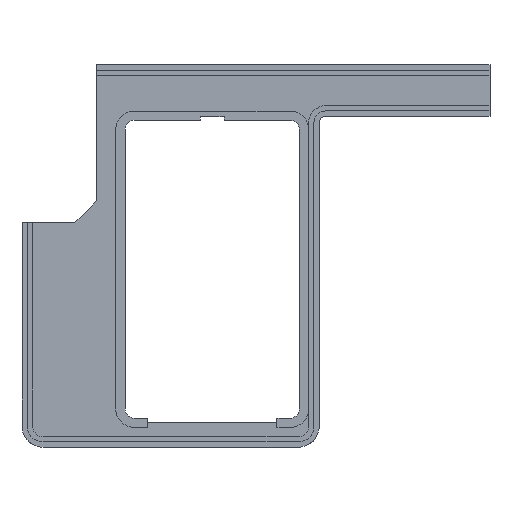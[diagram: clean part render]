
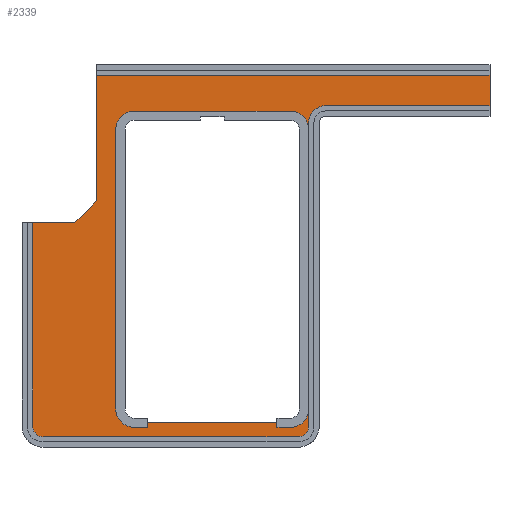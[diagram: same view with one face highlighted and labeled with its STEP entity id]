
A CAD part, top view. The second image highlights one B-rep face of the part: STEP entity #2339.
In plain terms, the highlighted planar face has unit normal (0, 0, 1).
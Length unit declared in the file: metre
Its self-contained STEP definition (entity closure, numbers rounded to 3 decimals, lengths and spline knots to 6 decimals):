
#39=CIRCLE('',#2484,0.007);
#40=CIRCLE('',#2485,0.007);
#41=CIRCLE('',#2486,0.007);
#42=CIRCLE('',#2487,0.007);
#43=CIRCLE('',#2488,0.0065);
#44=CIRCLE('',#2489,0.004);
#45=CIRCLE('',#2490,0.004);
#95=ORIENTED_EDGE('',*,*,#789,.F.);
#96=ORIENTED_EDGE('',*,*,#790,.T.);
#97=ORIENTED_EDGE('',*,*,#791,.T.);
#98=ORIENTED_EDGE('',*,*,#792,.T.);
#99=ORIENTED_EDGE('',*,*,#793,.T.);
#100=ORIENTED_EDGE('',*,*,#794,.T.);
#101=ORIENTED_EDGE('',*,*,#795,.T.);
#102=ORIENTED_EDGE('',*,*,#796,.T.);
#103=ORIENTED_EDGE('',*,*,#797,.T.);
#104=ORIENTED_EDGE('',*,*,#798,.T.);
#105=ORIENTED_EDGE('',*,*,#799,.F.);
#106=ORIENTED_EDGE('',*,*,#800,.T.);
#107=ORIENTED_EDGE('',*,*,#801,.F.);
#108=ORIENTED_EDGE('',*,*,#802,.T.);
#109=ORIENTED_EDGE('',*,*,#803,.F.);
#110=ORIENTED_EDGE('',*,*,#804,.T.);
#111=ORIENTED_EDGE('',*,*,#805,.T.);
#112=ORIENTED_EDGE('',*,*,#806,.T.);
#113=ORIENTED_EDGE('',*,*,#807,.T.);
#114=ORIENTED_EDGE('',*,*,#808,.F.);
#115=ORIENTED_EDGE('',*,*,#809,.F.);
#116=ORIENTED_EDGE('',*,*,#810,.F.);
#117=ORIENTED_EDGE('',*,*,#811,.F.);
#118=ORIENTED_EDGE('',*,*,#812,.T.);
#789=EDGE_CURVE('',#1136,#1137,#1363,.T.);
#790=EDGE_CURVE('',#1136,#1138,#39,.T.);
#791=EDGE_CURVE('',#1138,#1139,#1364,.T.);
#792=EDGE_CURVE('',#1139,#1140,#1365,.T.);
#793=EDGE_CURVE('',#1140,#1141,#1366,.T.);
#794=EDGE_CURVE('',#1141,#1142,#1367,.T.);
#795=EDGE_CURVE('',#1142,#1143,#1368,.T.);
#796=EDGE_CURVE('',#1143,#1144,#40,.T.);
#797=EDGE_CURVE('',#1144,#1145,#1369,.T.);
#798=EDGE_CURVE('',#1145,#1146,#41,.T.);
#799=EDGE_CURVE('',#1147,#1146,#1370,.T.);
#800=EDGE_CURVE('',#1147,#1148,#42,.T.);
#801=EDGE_CURVE('',#1149,#1148,#1371,.T.);
#802=EDGE_CURVE('',#1149,#1150,#43,.T.);
#803=EDGE_CURVE('',#1151,#1150,#1372,.T.);
#804=EDGE_CURVE('',#1151,#1152,#1373,.T.);
#805=EDGE_CURVE('',#1152,#1153,#1374,.T.);
#806=EDGE_CURVE('',#1153,#1154,#1375,.T.);
#807=EDGE_CURVE('',#1154,#1155,#1376,.T.);
#808=EDGE_CURVE('',#1156,#1155,#1377,.T.);
#809=EDGE_CURVE('',#1157,#1156,#1378,.T.);
#810=EDGE_CURVE('',#1158,#1157,#44,.T.);
#811=EDGE_CURVE('',#1159,#1158,#1379,.T.);
#812=EDGE_CURVE('',#1159,#1137,#45,.F.);
#1136=VERTEX_POINT('',#3336);
#1137=VERTEX_POINT('',#3337);
#1138=VERTEX_POINT('',#3339);
#1139=VERTEX_POINT('',#3341);
#1140=VERTEX_POINT('',#3343);
#1141=VERTEX_POINT('',#3345);
#1142=VERTEX_POINT('',#3347);
#1143=VERTEX_POINT('',#3349);
#1144=VERTEX_POINT('',#3351);
#1145=VERTEX_POINT('',#3353);
#1146=VERTEX_POINT('',#3355);
#1147=VERTEX_POINT('',#3357);
#1148=VERTEX_POINT('',#3359);
#1149=VERTEX_POINT('',#3361);
#1150=VERTEX_POINT('',#3363);
#1151=VERTEX_POINT('',#3365);
#1152=VERTEX_POINT('',#3367);
#1153=VERTEX_POINT('',#3369);
#1154=VERTEX_POINT('',#3371);
#1155=VERTEX_POINT('',#3373);
#1156=VERTEX_POINT('',#3375);
#1157=VERTEX_POINT('',#3377);
#1158=VERTEX_POINT('',#3379);
#1159=VERTEX_POINT('',#3381);
#1363=LINE('',#3335,#1663);
#1364=LINE('',#3340,#1664);
#1365=LINE('',#3342,#1665);
#1366=LINE('',#3344,#1666);
#1367=LINE('',#3346,#1667);
#1368=LINE('',#3348,#1668);
#1369=LINE('',#3352,#1669);
#1370=LINE('',#3356,#1670);
#1371=LINE('',#3360,#1671);
#1372=LINE('',#3364,#1672);
#1373=LINE('',#3366,#1673);
#1374=LINE('',#3368,#1674);
#1375=LINE('',#3370,#1675);
#1376=LINE('',#3372,#1676);
#1377=LINE('',#3374,#1677);
#1378=LINE('',#3376,#1678);
#1379=LINE('',#3380,#1679);
#1663=VECTOR('',#2675,1.);
#1664=VECTOR('',#2678,1.);
#1665=VECTOR('',#2679,1.);
#1666=VECTOR('',#2680,1.);
#1667=VECTOR('',#2681,1.);
#1668=VECTOR('',#2682,1.);
#1669=VECTOR('',#2685,1.);
#1670=VECTOR('',#2688,1.);
#1671=VECTOR('',#2691,1.);
#1672=VECTOR('',#2694,1.);
#1673=VECTOR('',#2695,1.);
#1674=VECTOR('',#2696,1.);
#1675=VECTOR('',#2697,1.);
#1676=VECTOR('',#2698,1.);
#1677=VECTOR('',#2699,1.);
#1678=VECTOR('',#2700,1.);
#1679=VECTOR('',#2703,1.);
#1955=EDGE_LOOP('',(#95,#96,#97,#98,#99,#100,#101,#102,#103,#104,#105,#106,
#107,#108,#109,#110,#111,#112,#113,#114,#115,#116,#117,#118));
#2095=FACE_BOUND('',#1955,.T.);
#2235=PLANE('',#2483);
#2339=ADVANCED_FACE('',(#2095),#2235,.F.);
#2483=AXIS2_PLACEMENT_3D('',#3334,#2673,#2674);
#2484=AXIS2_PLACEMENT_3D('',#3338,#2676,#2677);
#2485=AXIS2_PLACEMENT_3D('',#3350,#2683,#2684);
#2486=AXIS2_PLACEMENT_3D('',#3354,#2686,#2687);
#2487=AXIS2_PLACEMENT_3D('',#3358,#2689,#2690);
#2488=AXIS2_PLACEMENT_3D('',#3362,#2692,#2693);
#2489=AXIS2_PLACEMENT_3D('',#3378,#2701,#2702);
#2490=AXIS2_PLACEMENT_3D('',#3382,#2704,#2705);
#2673=DIRECTION('',(0.,0.,-1.));
#2674=DIRECTION('',(1.,0.,0.));
#2675=DIRECTION('',(0.,-1.,0.));
#2676=DIRECTION('',(0.,0.,-1.));
#2677=DIRECTION('',(-1.,0.,0.));
#2678=DIRECTION('',(-1.,0.,0.));
#2679=DIRECTION('',(0.,1.,0.));
#2680=DIRECTION('',(-1.,0.,0.));
#2681=DIRECTION('',(0.,-1.,0.));
#2682=DIRECTION('',(-1.,0.,0.));
#2683=DIRECTION('',(0.,0.,-1.));
#2684=DIRECTION('',(-1.,0.,0.));
#2685=DIRECTION('',(0.,1.,0.));
#2686=DIRECTION('',(0.,0.,-1.));
#2687=DIRECTION('',(-1.,0.,0.));
#2688=DIRECTION('',(-1.,0.,0.));
#2689=DIRECTION('',(0.,0.,-1.));
#2690=DIRECTION('',(-1.,0.,0.));
#2691=DIRECTION('',(0.,-1.,0.));
#2692=DIRECTION('',(0.,0.,-1.));
#2693=DIRECTION('',(-1.,0.,0.));
#2694=DIRECTION('',(-1.,0.,0.));
#2695=DIRECTION('',(0.,1.,0.));
#2696=DIRECTION('',(-1.,0.,0.));
#2697=DIRECTION('',(0.,-1.,0.));
#2698=DIRECTION('',(-0.707,-0.707,0.));
#2699=DIRECTION('',(1.,0.,0.));
#2700=DIRECTION('',(0.,1.,0.));
#2701=DIRECTION('',(0.,0.,-1.));
#2702=DIRECTION('',(-1.,0.,0.));
#2703=DIRECTION('',(-1.,0.,0.));
#2704=DIRECTION('',(0.,0.,-1.));
#2705=DIRECTION('',(-1.,0.,0.));
#3334=CARTESIAN_POINT('',(-0.003,-0.006225,-0.01875));
#3335=CARTESIAN_POINT('',(-0.1565,-0.006225,-0.01875));
#3336=CARTESIAN_POINT('',(-0.1565,-0.0641,-0.01875));
#3337=CARTESIAN_POINT('',(-0.1565,-0.0706,-0.01875));
#3338=CARTESIAN_POINT('',(-0.1635,-0.0641,-0.01875));
#3339=CARTESIAN_POINT('',(-0.1635,-0.0711,-0.01875));
#3340=CARTESIAN_POINT('',(-0.1915,-0.0711,-0.01875));
#3341=CARTESIAN_POINT('',(-0.1685,-0.0711,-0.01875));
#3342=CARTESIAN_POINT('',(-0.1685,-0.0701,-0.01875));
#3343=CARTESIAN_POINT('',(-0.1685,-0.0691,-0.01875));
#3344=CARTESIAN_POINT('',(-0.003,-0.0691,-0.01875));
#3345=CARTESIAN_POINT('',(-0.2175,-0.0691,-0.01875));
#3346=CARTESIAN_POINT('',(-0.2175,-0.0701,-0.01875));
#3347=CARTESIAN_POINT('',(-0.2175,-0.0711,-0.01875));
#3348=CARTESIAN_POINT('',(-0.1945,-0.0711,-0.01875));
#3349=CARTESIAN_POINT('',(-0.2225,-0.0711,-0.01875));
#3350=CARTESIAN_POINT('',(-0.2225,-0.0641,-0.01875));
#3351=CARTESIAN_POINT('',(-0.2295,-0.0641,-0.01875));
#3352=CARTESIAN_POINT('',(-0.2295,-0.011225,-0.01875));
#3353=CARTESIAN_POINT('',(-0.2295,0.04165,-0.01875));
#3354=CARTESIAN_POINT('',(-0.2225,0.04165,-0.01875));
#3355=CARTESIAN_POINT('',(-0.2225,0.04865,-0.01875));
#3356=CARTESIAN_POINT('',(-0.1945,0.04865,-0.01875));
#3357=CARTESIAN_POINT('',(-0.1635,0.04865,-0.01875));
#3358=CARTESIAN_POINT('',(-0.1635,0.04165,-0.01875));
#3359=CARTESIAN_POINT('',(-0.1565,0.04165,-0.01875));
#3360=CARTESIAN_POINT('',(-0.1565,-0.006225,-0.01875));
#3361=CARTESIAN_POINT('',(-0.1565,0.04415,-0.01875));
#3362=CARTESIAN_POINT('',(-0.15,0.04415,-0.01875));
#3363=CARTESIAN_POINT('',(-0.15,0.05065,-0.01875));
#3364=CARTESIAN_POINT('',(0.,0.05065,-0.01875));
#3365=CARTESIAN_POINT('',(-0.087882,0.05065,-0.01875));
#3366=CARTESIAN_POINT('',(-0.087882,-0.006225,-0.01875));
#3367=CARTESIAN_POINT('',(-0.087882,0.06215,-0.01875));
#3368=CARTESIAN_POINT('',(-0.003,0.06215,-0.01875));
#3369=CARTESIAN_POINT('',(-0.2368,0.06215,-0.01875));
#3370=CARTESIAN_POINT('',(-0.2368,-0.006225,-0.01875));
#3371=CARTESIAN_POINT('',(-0.2368,0.014633,-0.01875));
#3372=CARTESIAN_POINT('',(-0.130329,0.121104,-0.01875));
#3373=CARTESIAN_POINT('',(-0.244983,0.00645,-0.01875));
#3374=CARTESIAN_POINT('',(-0.003,0.00645,-0.01875));
#3375=CARTESIAN_POINT('',(-0.261,0.00645,-0.01875));
#3376=CARTESIAN_POINT('',(-0.261,-0.006225,-0.01875));
#3377=CARTESIAN_POINT('',(-0.261,-0.0706,-0.01875));
#3378=CARTESIAN_POINT('',(-0.257,-0.0706,-0.01875));
#3379=CARTESIAN_POINT('',(-0.257,-0.0746,-0.01875));
#3380=CARTESIAN_POINT('',(-0.21025,-0.0746,-0.01875));
#3381=CARTESIAN_POINT('',(-0.1605,-0.0746,-0.01875));
#3382=CARTESIAN_POINT('',(-0.1605,-0.0706,-0.01875));
